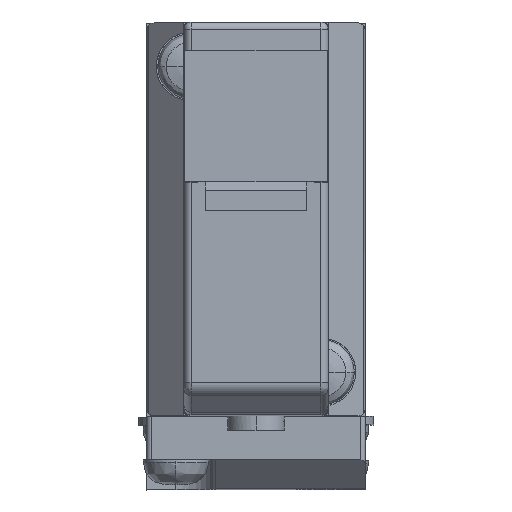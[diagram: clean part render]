
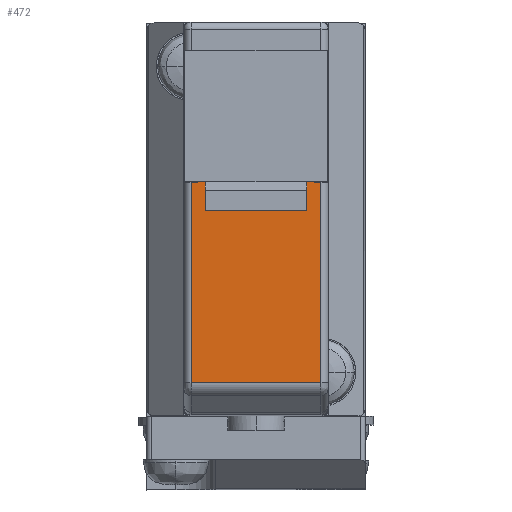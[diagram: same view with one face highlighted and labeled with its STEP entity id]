
A CAD part, top view. The second image highlights one B-rep face of the part: STEP entity #472.
In plain terms, the highlighted planar face has unit normal (0, 0, 1).
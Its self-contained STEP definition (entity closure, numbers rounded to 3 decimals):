
#472=ADVANCED_FACE('',(#2398),#2397,.F.);
#2397=PLANE('',#5226);
#2398=FACE_OUTER_BOUND('',#5227,.T.);
#5223=CARTESIAN_POINT('',(5.34,-26.283,27.4));
#5224=DIRECTION('',(0.,0.,-1.));
#5225=DIRECTION('',(-1.,0.,0.));
#5226=AXIS2_PLACEMENT_3D('',#5223,#5224,#5225);
#5227=EDGE_LOOP('',(#7031,#7032,#7033,#7034,#7035,#7036,#7037,#7038));
#7031=ORIENTED_EDGE('',*,*,#8355,.F.);
#7032=ORIENTED_EDGE('',*,*,#8362,.T.);
#7033=ORIENTED_EDGE('',*,*,#8363,.T.);
#7034=ORIENTED_EDGE('',*,*,#8364,.T.);
#7035=ORIENTED_EDGE('',*,*,#8347,.F.);
#7036=ORIENTED_EDGE('',*,*,#8283,.F.);
#7037=ORIENTED_EDGE('',*,*,#8292,.F.);
#7038=ORIENTED_EDGE('',*,*,#8285,.T.);
#8283=EDGE_CURVE('',#11278,#11263,#11285,.T.);
#8285=EDGE_CURVE('',#11299,#11292,#11300,.T.);
#8292=EDGE_CURVE('',#11299,#11278,#11345,.T.);
#8347=EDGE_CURVE('',#11263,#11715,#11716,.T.);
#8355=EDGE_CURVE('',#11762,#11292,#11769,.T.);
#8362=EDGE_CURVE('',#11762,#11815,#11816,.T.);
#8363=EDGE_CURVE('',#11815,#11822,#11823,.T.);
#8364=EDGE_CURVE('',#11822,#11715,#11829,.T.);
#11263=VERTEX_POINT('',#16009);
#11278=VERTEX_POINT('',#16018);
#11285=LINE('',#16022,#16023);
#11292=VERTEX_POINT('',#16026);
#11299=VERTEX_POINT('',#16030);
#11300=LINE('',#16031,#16032);
#11345=LINE('',#16055,#16056);
#11715=VERTEX_POINT('',#16264);
#11716=LINE('',#16265,#16266);
#11762=VERTEX_POINT('',#16291);
#11769=LINE('',#16296,#16297);
#11815=VERTEX_POINT('',#16321);
#11816=LINE('',#16322,#16323);
#11822=VERTEX_POINT('',#16325);
#11823=LINE('',#16326,#16327);
#11829=LINE('',#16329,#16330);
#16009=CARTESIAN_POINT('',(4.,-11.,27.4));
#16018=CARTESIAN_POINT('',(4.,-9.5,27.4));
#16022=CARTESIAN_POINT('',(4.,-9.5,27.4));
#16023=VECTOR('',#16024,1.5);
#16024=DIRECTION('',(0.,-1.,0.));
#16026=CARTESIAN_POINT('',(-4.,-11.,27.4));
#16030=CARTESIAN_POINT('',(-4.,-9.5,27.4));
#16031=CARTESIAN_POINT('',(-4.,-9.5,27.4));
#16032=VECTOR('',#16033,1.5);
#16033=DIRECTION('',(0.,-1.,0.));
#16055=CARTESIAN_POINT('',(-4.,-9.5,27.4));
#16056=VECTOR('',#16057,8.);
#16057=DIRECTION('',(1.,0.,0.));
#16264=CARTESIAN_POINT('',(4.45,-11.,27.4));
#16265=CARTESIAN_POINT('',(4.,-11.,27.4));
#16266=VECTOR('',#16267,0.45);
#16267=DIRECTION('',(1.,0.,0.));
#16291=CARTESIAN_POINT('',(-4.45,-11.,27.4));
#16296=CARTESIAN_POINT('',(-4.45,-11.,27.4));
#16297=VECTOR('',#16298,0.45);
#16298=DIRECTION('',(1.,0.,0.));
#16321=CARTESIAN_POINT('',(-4.45,-24.758,27.4));
#16322=CARTESIAN_POINT('',(-4.45,-11.,27.4));
#16323=VECTOR('',#16324,13.758);
#16324=DIRECTION('',(0.,-1.,0.));
#16325=CARTESIAN_POINT('',(4.45,-24.758,27.4));
#16326=CARTESIAN_POINT('',(-4.45,-24.758,27.4));
#16327=VECTOR('',#16328,8.9);
#16328=DIRECTION('',(1.,0.,0.));
#16329=CARTESIAN_POINT('',(4.45,-24.758,27.4));
#16330=VECTOR('',#16331,13.758);
#16331=DIRECTION('',(0.,1.,0.));
